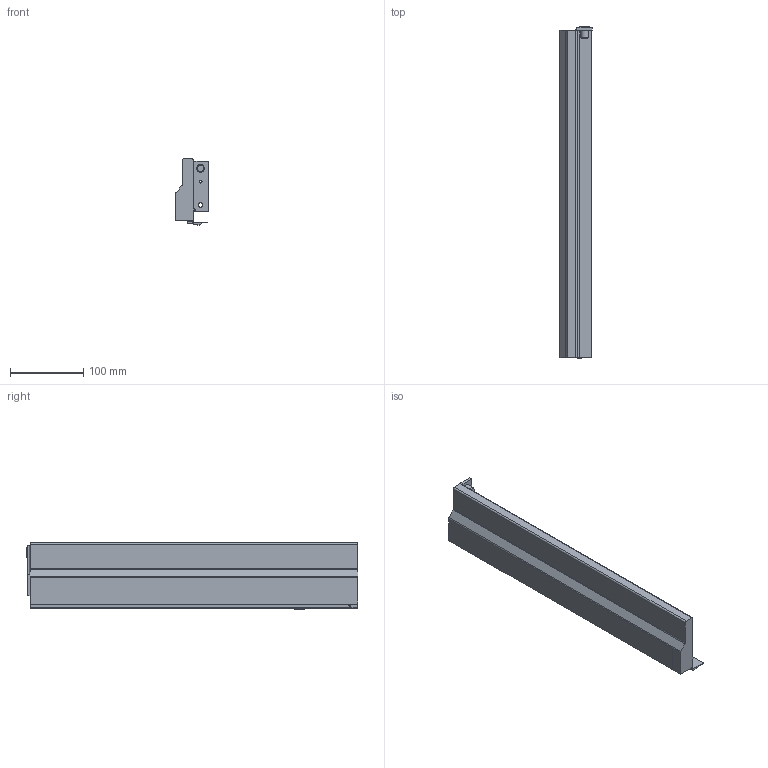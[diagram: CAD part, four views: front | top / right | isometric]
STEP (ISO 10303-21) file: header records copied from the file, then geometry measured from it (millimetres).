
FILE_DESCRIPTION (( 'STEP AP214' ), '1' );
FILE_NAME ('_IMOS_NOVA-Pro_Dekor-H90_CL_NL450_LI.step', '2010-07-06T09:00:48', ( 'grass' ), ( '' ), 'SwSTEP 2.0', 'SolidWorks 2009', '' );
FILE_SCHEMA (( 'AUTOMOTIVE_DESIGN' ));
Length unit declared in the file: millimetre
Products named in the file (1): _IMOS_NOVA-Pro_Dekor-H90_CL_NL450_LI
Bounding box: 44.3 x 452.7 x 90.49 mm (x, y, z)
Volume: 400694 mm3; surface area: 156590.2 mm2
Topology: 1 solids, 1 shells, 89 faces, 239 edges, 156 vertices
Faces by surface type: plane 57, cylinder 27, cone 4, bspline 1
Entity records: 2825 total; most frequent: CARTESIAN_POINT 506, ORIENTED_EDGE 478, DIRECTION 474, EDGE_CURVE 239, VECTOR 178, LINE 178, VERTEX_POINT 156, AXIS2_PLACEMENT_3D 148
